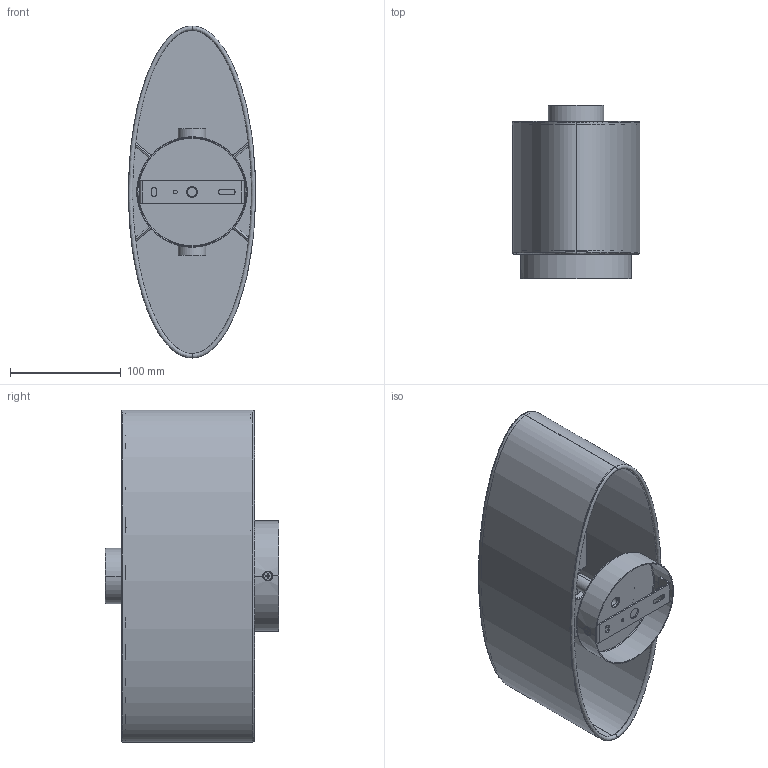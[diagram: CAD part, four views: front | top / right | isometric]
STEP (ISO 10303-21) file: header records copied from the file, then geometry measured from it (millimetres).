
FILE_DESCRIPTION (( 'STEP AP214' ), '1' );
FILE_NAME ('XETA_A1362.STEP', '2026-06-25T13:08:13', ( '' ), ( '' ), 'SwSTEP 2.0', 'SolidWorks 2023', '' );
FILE_SCHEMA (( 'AUTOMOTIVE_DESIGN' ));
Length unit declared in the file: millimetre
Products named in the file (10): BUDENGZHAO-L300XW115XH120MM.stp; GUANHUANJIEZU.stp; DALISHIZHUANGSHIJIAN.stp; XETA_A1362; YUANTIEPIAN-D50XH2MM.stp; DALISHIDIZUO-D100MM.stp; GONGXINGGUABAN-L94MM.stp; CO-126014.stp; DENGBEI-D42MM.stp; M4X12-SHIZICHENTOULUOSI.stp
Assembly tree (11 placements, depth 3):
  XETA_A1362
    CO-126014.stp
      DALISHIDIZUO-D100MM.stp
      YUANTIEPIAN-D50XH2MM.stp
      GUANHUANJIEZU.stp
      BUDENGZHAO-L300XW115XH120MM.stp
      DALISHIZHUANGSHIJIAN.stp
      DENGBEI-D42MM.stp  x2
      GONGXINGGUABAN-L94MM.stp
      M4X12-SHIZICHENTOULUOSI.stp  x2
Bounding box: 114.94 x 157.01 x 300 mm (x, y, z)
Volume: 140034 mm3; surface area: 301305.9 mm2
Topology: 15 solids, 15 shells, 450 faces, 1054 edges, 645 vertices
Faces by surface type: cylinder 161, bspline 128, plane 99, cone 40, torus 20, sphere 2
Entity records: 21411 total; most frequent: CARTESIAN_POINT 14199, ORIENTED_EDGE 1538, DIRECTION 1239, EDGE_CURVE 769, AXIS2_PLACEMENT_3D 505, VERTEX_POINT 471, EDGE_LOOP 370, FACE_OUTER_BOUND 333
